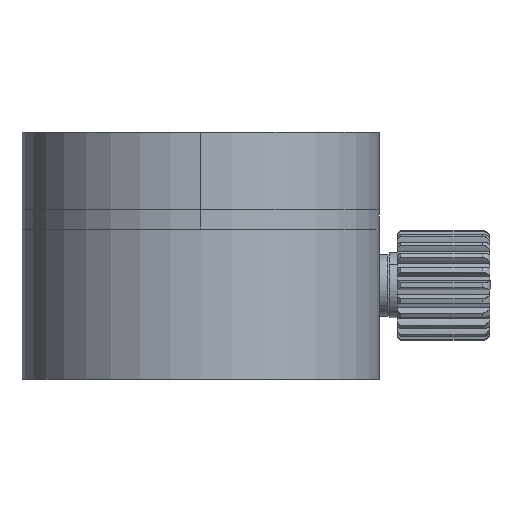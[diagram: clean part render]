
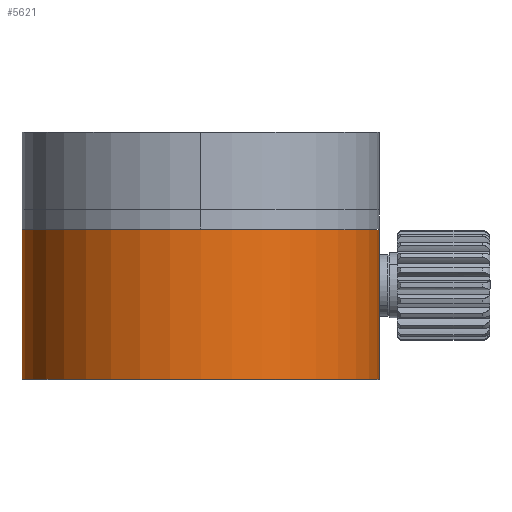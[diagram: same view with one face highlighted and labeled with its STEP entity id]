
A CAD part, top view. The second image highlights one B-rep face of the part: STEP entity #5621.
In plain terms, the highlighted cylindrical face has radius 27.5 mm (diameter 55 mm), a partial arc.
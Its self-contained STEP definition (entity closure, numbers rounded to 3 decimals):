
#5087 = DIRECTION ( 'NONE',  ( -1., 0., 0. ) ) ;
#5088 = DIRECTION ( 'NONE',  ( 0., 1., 0. ) ) ;
#5089 = CARTESIAN_POINT ( 'NONE',  ( 0., -14.5, 0. ) ) ;
#5090 = AXIS2_PLACEMENT_3D ( 'NONE', #5089, #5088, #5087 ) ;
#5091 = CIRCLE ( 'NONE', #5090, 27.5 ) ;
#5603 = ORIENTED_EDGE ( 'NONE', *, *, #7618, .F. ) ;
#5618 = ORIENTED_EDGE ( 'NONE', *, *, #7623, .T. ) ;
#5619 = EDGE_LOOP ( 'NONE', ( #5603, #5662, #5618, #5649 ) ) ;
#5621 = ADVANCED_FACE ( 'NONE', ( #15295 ), #15294, .T. ) ;
#5630 = EDGE_CURVE ( 'NONE', #7619, #7621, #15337, .T. ) ;
#5649 = ORIENTED_EDGE ( 'NONE', *, *, #5630, .F. ) ;
#5662 = ORIENTED_EDGE ( 'NONE', *, *, #18339, .T. ) ;
#7576 = VERTEX_POINT ( 'NONE', #16934 ) ;
#7577 = VERTEX_POINT ( 'NONE', #16933 ) ;
#7618 = EDGE_CURVE ( 'NONE', #7577, #7619, #17096, .T. ) ;
#7619 = VERTEX_POINT ( 'NONE', #17092 ) ;
#7621 = VERTEX_POINT ( 'NONE', #17091 ) ;
#7623 = EDGE_CURVE ( 'NONE', #7576, #7621, #17085, .T. ) ;
#15289 = DIRECTION ( 'NONE',  ( 1., 0., 0. ) ) ;
#15290 = DIRECTION ( 'NONE',  ( 0., 1., 0. ) ) ;
#15291 = CARTESIAN_POINT ( 'NONE',  ( 0., -6.5, 0. ) ) ;
#15292 = AXIS2_PLACEMENT_3D ( 'NONE', #15291, #15290, #15289 ) ;
#15294 = CYLINDRICAL_SURFACE ( 'NONE', #15292, 27.5 ) ;
#15295 = FACE_OUTER_BOUND ( 'NONE', #5619, .T. ) ;
#15333 = DIRECTION ( 'NONE',  ( 1., 0., 0. ) ) ;
#15334 = DIRECTION ( 'NONE',  ( 0., 1., 0. ) ) ;
#15335 = CARTESIAN_POINT ( 'NONE',  ( 0., 8.5, 0. ) ) ;
#15336 = AXIS2_PLACEMENT_3D ( 'NONE', #15335, #15334, #15333 ) ;
#15337 = CIRCLE ( 'NONE', #15336, 27.5 ) ;
#16933 = CARTESIAN_POINT ( 'NONE',  ( -27.5, -14.5, 0. ) ) ;
#16934 = CARTESIAN_POINT ( 'NONE',  ( 27.5, -14.5, 0. ) ) ;
#17082 = DIRECTION ( 'NONE',  ( 0., 1., 0. ) ) ;
#17083 = VECTOR ( 'NONE', #17082, 1000. ) ;
#17084 = CARTESIAN_POINT ( 'NONE',  ( 27.5, -6.5, 0. ) ) ;
#17085 = LINE ( 'NONE', #17084, #17083 ) ;
#17091 = CARTESIAN_POINT ( 'NONE',  ( 27.5, 8.5, 0. ) ) ;
#17092 = CARTESIAN_POINT ( 'NONE',  ( -27.5, 8.5, 0. ) ) ;
#17093 = DIRECTION ( 'NONE',  ( 0., 1., 0. ) ) ;
#17094 = VECTOR ( 'NONE', #17093, 1000. ) ;
#17095 = CARTESIAN_POINT ( 'NONE',  ( -27.5, -6.5, 0. ) ) ;
#17096 = LINE ( 'NONE', #17095, #17094 ) ;
#18339 = EDGE_CURVE ( 'NONE', #7577, #7576, #5091, .T. ) ;
